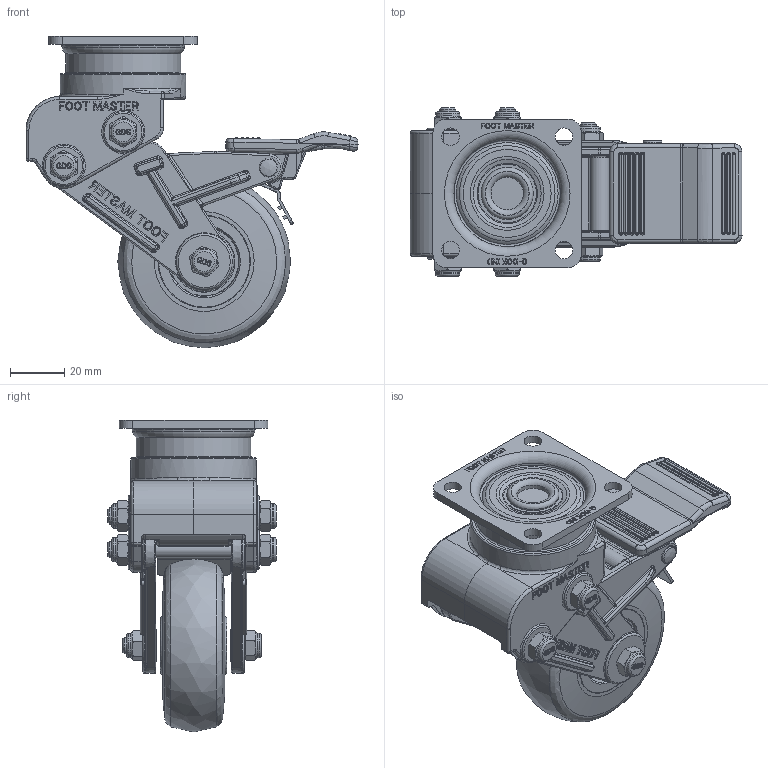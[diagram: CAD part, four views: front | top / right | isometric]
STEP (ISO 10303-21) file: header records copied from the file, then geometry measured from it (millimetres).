
FILE_DESCRIPTION(/* description */ (''),/* implementation_level */ '2;1');
FILE_NAME(/* name */ '\\192.168.10.38\지덕공유\1.기술연구소\2.연구개발 완료\완료_55.소형 충격흡수식캐스터_GDS-50.65\5.홈페이지 도면\3D\GDS-65-BRF-EUS-1.stp',/* time_stamp */ '2024-12-05T10:10:11+09:00',/* author */ ('admin'),/* organization */ (''),/* preprocessor_version */ 'ST-DEVELOPER v18.1',/* originating_system */ 'Autodesk Inventor 2021',/* authorisation */ '');
FILE_SCHEMA (('AUTOMOTIVE_DESIGN { 1 0 10303 214 3 1 1 }'));
Products named in the file (1): GDS-65-BRF-EUS
Bounding box: 122.96 x 62.3 x 115.51 mm (x, y, z)
Volume: 164841.5 mm3; surface area: 60520.2 mm2
Topology: 1 solids, 1 shells, 2661 faces, 6851 edges, 4293 vertices
Faces by surface type: plane 921, bspline 844, cylinder 534, cone 161, torus 149, sphere 52
Full cylindrical faces by diameter (mm): 2 x1, 4 x3, 6 x5, 6.5 x4, 7 x2, 8.8 x3, 9 x6, 12 x1, 17.216 x2, 18 x1, 19.3 x1, 20 x2, 22 x2, 22.784 x2, 42.5 x1, 46.5 x1
Entity records: 94068 total; most frequent: CARTESIAN_POINT 31335, ORIENTED_EDGE 13624, DIRECTION 10840, EDGE_CURVE 6812, VERTEX_POINT 4293, AXIS2_PLACEMENT_3D 3825, LINE 3190, VECTOR 3190
